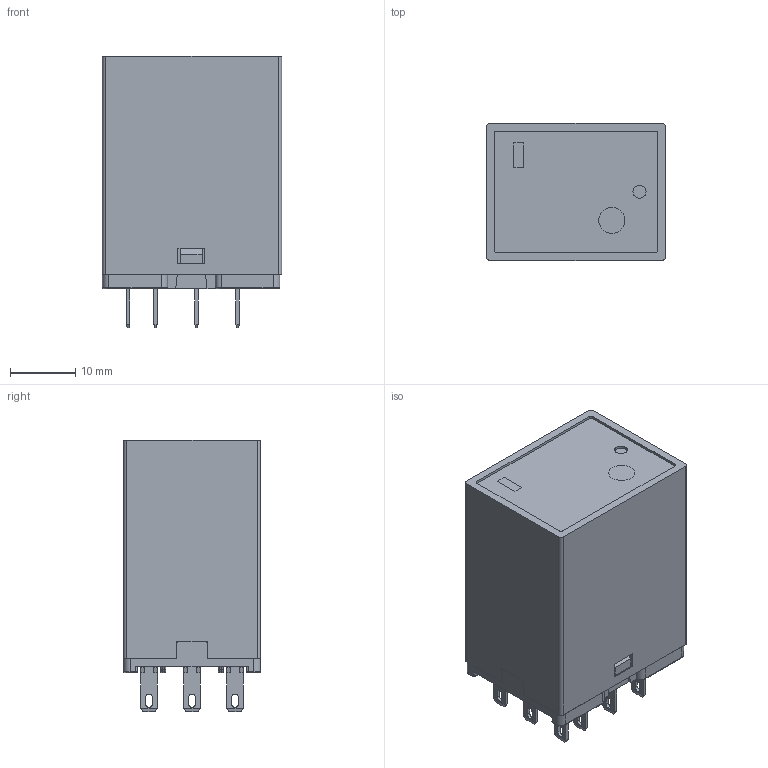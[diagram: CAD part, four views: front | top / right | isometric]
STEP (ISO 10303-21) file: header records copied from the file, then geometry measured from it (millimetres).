
FILE_DESCRIPTION(/* description */ (''),/* implementation_level */ '2;1');
FILE_NAME(/* name */ '18FF-3Z1.stp',/* time_stamp */ '2018-12-27T14:49:56+08:00',/* author */ (''),/* organization */ (''),/* preprocessor_version */ 'ST-DEVELOPER v15',/* originating_system */ 'SIEMENS PLM Software NX 8.5',/* authorisation */ '');
FILE_SCHEMA (('CONFIG_CONTROL_DESIGN'));
Length unit declared in the file: millimetre
Products named in the file (14): 77190533900_a; 66210829900_a; 77500391900_a; 80710159000_d; 78440083000_a; 89140050020_a; 66640327000_a; 86340694000_b; 66210881000_a; 66201145900_a; 61210587000_b; 56701805000_a; 56701807000_a; 45201673000_a
Assembly tree (22 placements, depth 6):
  45201673000_a
    56701807000_a
      66640327000_a
      56701805000_a
        61210587000_b
          80710159000_d
          66201145900_a  x6
            77190533900_a
          77500391900_a  x5
        66210881000_a
          66210829900_a
        89140050020_a
        78440083000_a
    86340694000_b
Bounding box: 27.5 x 21 x 41.7 mm (x, y, z)
Volume: 6818.8 mm3; surface area: 11934.5 mm2
Topology: 31 solids, 31 shells, 1702 faces, 4406 edges, 2810 vertices
Faces by surface type: plane 1116, cylinder 457, extrusion 42, sphere 34, torus 32, bspline 15, cone 6
Full cylindrical faces by diameter (mm): 2 x1, 2.05 x6, 2.6 x1, 4 x1, 4.5 x1, 6 x1, 6.5 x1
Entity records: 40892 total; most frequent: CARTESIAN_POINT 12703, ORIENTED_EDGE 5584, DIRECTION 5258, EDGE_CURVE 2792, VECTOR 2000, LINE 1958, VERTEX_POINT 1774, AXIS2_PLACEMENT_3D 1629
